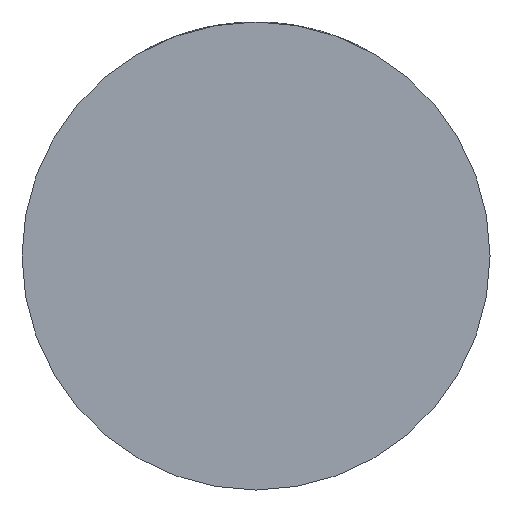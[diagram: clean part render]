
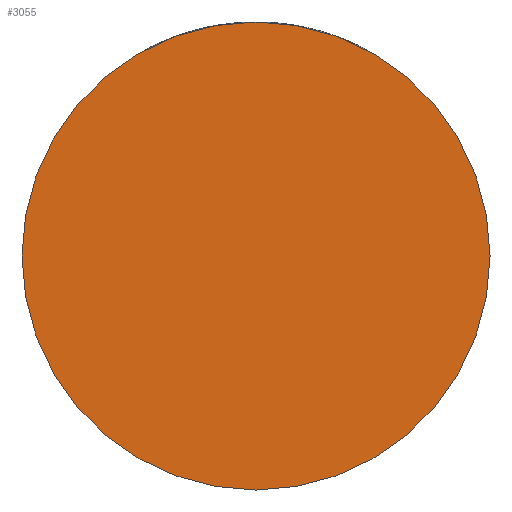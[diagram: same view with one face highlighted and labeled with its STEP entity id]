
A CAD part, front view. The second image highlights one B-rep face of the part: STEP entity #3055.
In plain terms, the highlighted planar face has unit normal (0, -1, 0).
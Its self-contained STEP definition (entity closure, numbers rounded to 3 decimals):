
#297 = CARTESIAN_POINT ( 'NONE',  ( 0., -42., 0. ) ) ;
#508 = AXIS2_PLACEMENT_3D ( 'NONE', #1509, #2913, #3635 ) ;
#619 = CARTESIAN_POINT ( 'NONE',  ( 49., -42., 0. ) ) ;
#823 = DIRECTION ( 'NONE',  ( 0., -1., 0. ) ) ;
#868 = CARTESIAN_POINT ( 'NONE',  ( 0., -42., 0. ) ) ;
#1050 = EDGE_CURVE ( 'NONE', #1497, #3396, #3743, .T. ) ;
#1170 = FACE_OUTER_BOUND ( 'NONE', #1797, .T. ) ;
#1497 = VERTEX_POINT ( 'NONE', #3727 ) ;
#1509 = CARTESIAN_POINT ( 'NONE',  ( 0., -42., 0. ) ) ;
#1651 = ORIENTED_EDGE ( 'NONE', *, *, #1050, .T. ) ;
#1773 = AXIS2_PLACEMENT_3D ( 'NONE', #297, #2079, #4192 ) ;
#1797 = EDGE_LOOP ( 'NONE', ( #1651, #3067 ) ) ;
#1887 = DIRECTION ( 'NONE',  ( 1., 0., 0. ) ) ;
#1900 = EDGE_CURVE ( 'NONE', #3396, #1497, #4429, .T. ) ;
#2079 = DIRECTION ( 'NONE',  ( 0., -1., 0. ) ) ;
#2596 = AXIS2_PLACEMENT_3D ( 'NONE', #868, #823, #1887 ) ;
#2913 = DIRECTION ( 'NONE',  ( 0., -1., 0. ) ) ;
#3055 = ADVANCED_FACE ( 'NONE', ( #1170 ), #3709, .T. ) ;
#3067 = ORIENTED_EDGE ( 'NONE', *, *, #1900, .T. ) ;
#3396 = VERTEX_POINT ( 'NONE', #619 ) ;
#3635 = DIRECTION ( 'NONE',  ( 1., 0., 0. ) ) ;
#3709 = PLANE ( 'NONE',  #2596 ) ;
#3727 = CARTESIAN_POINT ( 'NONE',  ( -49., -42., 0. ) ) ;
#3743 = CIRCLE ( 'NONE', #508, 49. ) ;
#4192 = DIRECTION ( 'NONE',  ( 1., 0., 0. ) ) ;
#4429 = CIRCLE ( 'NONE', #1773, 49. ) ;
